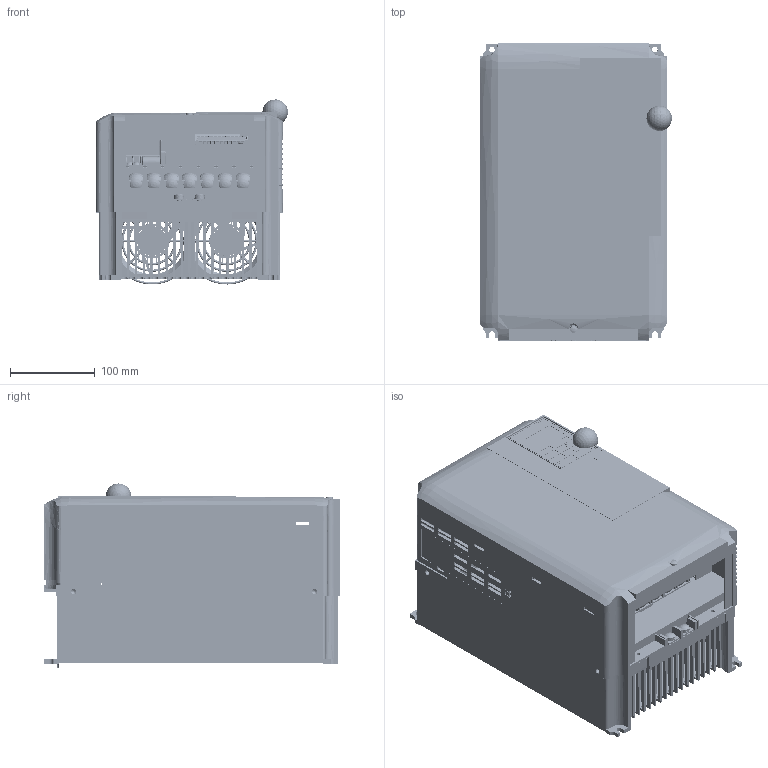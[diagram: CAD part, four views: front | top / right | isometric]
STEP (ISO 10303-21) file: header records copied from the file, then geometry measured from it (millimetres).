
FILE_DESCRIPTION((''),'2;1');
FILE_NAME('SM_R1K_FR3_N1_ASM','2021-08-27T',('anm'),('YASKAWA ELECTRIC CORCORATION'),'PRO/ENGINEER BY PARAMETRIC TECHNOLOGY CORPORATION, 2017170','PRO/ENGINEER BY PARAMETRIC TECHNOLOGY CORPORATION, 2017170','');
FILE_SCHEMA(('AUTOMOTIVE_DESIGN { 1 0 10303 214 1 1 1 1 }'));
Products named in the file (7): RU4A0028FAA_BASE; RU4A0028FAA_COVER1; RU4A0028FAA_COVER2; RU4A0028FAA_DIGOP; RU4A0028FAA_COVER3; RU4A0028FAA_ASM_ASM; SM_R1K_FR3_N1_ASM
Assembly tree (6 placements, depth 3):
  SM_R1K_FR3_N1_ASM
    RU4A0028FAA_ASM_ASM
      RU4A0028FAA_BASE
      RU4A0028FAA_COVER1
      RU4A0028FAA_COVER2
      RU4A0028FAA_DIGOP
      RU4A0028FAA_COVER3
Bounding box: 226 x 350 x 218.13 mm (x, y, z)
Surface area: 1739299.6 mm2 (no closed solid volume)
Topology: 0 solids, 0 shells, 6974 faces, 40373 edges, 40143 vertices
Faces by surface type: bspline 6783, torus 160, sphere 31
Entity records: 604719 total; most frequent: CARTESIAN_POINT 235068, DIRECTION 57525, TRIMMED_CURVE 53798, VECTOR 50489, LINE 50489, DEFINITIONAL_REPRESENTATION 39978, PCURVE 39978, COMPOSITE_CURVE_SEGMENT 39978
